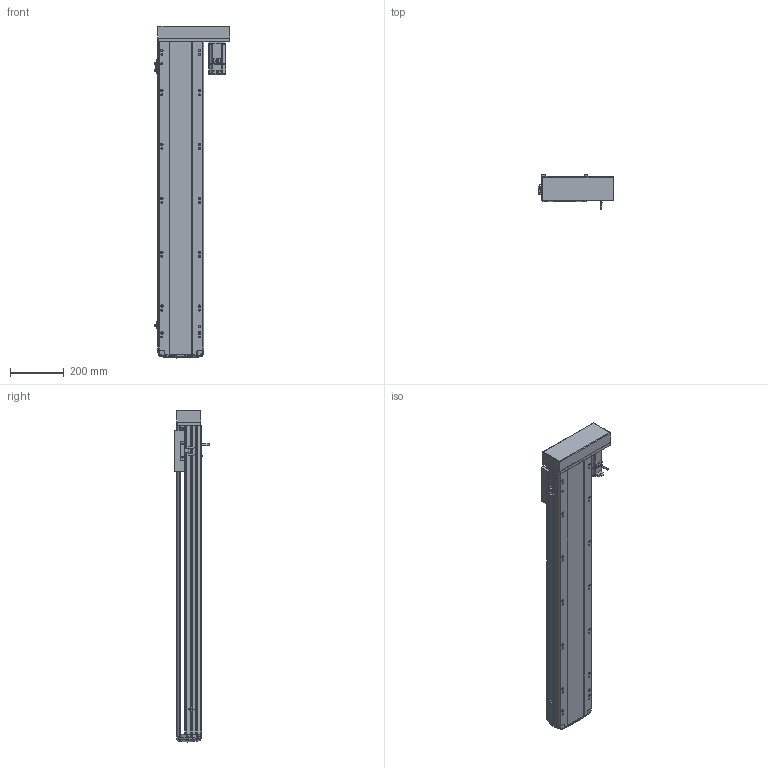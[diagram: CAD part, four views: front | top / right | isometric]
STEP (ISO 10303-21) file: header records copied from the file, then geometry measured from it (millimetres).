
FILE_DESCRIPTION (( 'STEP AP214' ), '1' );
FILE_NAME ('RTH17-XX-950-L-M40-C4.STEP', '2025-10-24T08:48:26', ( '' ), ( '' ), 'SwSTEP 2.0', 'SolidWorks 2018', '' );
FILE_SCHEMA (( 'AUTOMOTIVE_DESIGN' ));
Length unit declared in the file: millimetre
Products named in the file (10): RTH17-XX-950-L-M40-C4; N_RTH-BL-012 感应片(外置)^RTH17-XX-XX-L-M40-C4（方程式）; N_M40^RTH17-XX-XX-L-M40-C4（方程式）; N_RTH17-M-007上盖^RTH17-XX-XX-L-M40-C4（方程式）; N_RTH17-E-004丝杆螺母连接座^RTH17-XX-XX-L-M40-C4（方程式）; N_RTH17-L-018盖子^RTH17-XX-XX-L-M40-C4（方程式）; N_RTH17-L-008-P40电机安装板左转折^RTH17-XX-XX-L-M40-C4（方程式）; N_RTH17-GY-001P^RTH17-XX-XX-L-M40-C4（方程式）; N_RTH17-M-011底座^RTH17-XX-XX-L-M40-C4（方程式）; N_OMRON EE-SX672 換覜ん^RTH17-XX-XX-L-M40-C4ㄗ源最宒ㄘ
Assembly tree (11 placements, depth 2):
  RTH17-XX-950-L-M40-C4
    N_RTH17-M-011底座^RTH17-XX-XX-L-M40-C4（方程式）
    N_RTH17-M-007上盖^RTH17-XX-XX-L-M40-C4（方程式）
    N_M40^RTH17-XX-XX-L-M40-C4（方程式）
    N_OMRON EE-SX672 換覜ん^RTH17-XX-XX-L-M40-C4ㄗ源最宒ㄘ  x3
    N_RTH-BL-012 感应片(外置)^RTH17-XX-XX-L-M40-C4（方程式）
    N_RTH17-L-008-P40电机安装板左转折^RTH17-XX-XX-L-M40-C4（方程式）
    N_RTH17-L-018盖子^RTH17-XX-XX-L-M40-C4（方程式）
    N_RTH17-E-004丝杆螺母连接座^RTH17-XX-XX-L-M40-C4（方程式）
    N_RTH17-GY-001P^RTH17-XX-XX-L-M40-C4（方程式）
Bounding box: 281 x 127 x 1232.99 mm (x, y, z)
Volume: 10514838.9 mm3; surface area: 1346251.5 mm2
Topology: 13 solids, 15 shells, 1679 faces, 4683 edges, 3054 vertices
Faces by surface type: plane 837, cylinder 475, bspline 330, cone 28, torus 9
Entity records: 49286 total; most frequent: CARTESIAN_POINT 19889, ORIENTED_EDGE 6390, DIRECTION 5269, EDGE_CURVE 3199, VERTEX_POINT 2090, LINE 1783, VECTOR 1783, AXIS2_PLACEMENT_3D 1743
